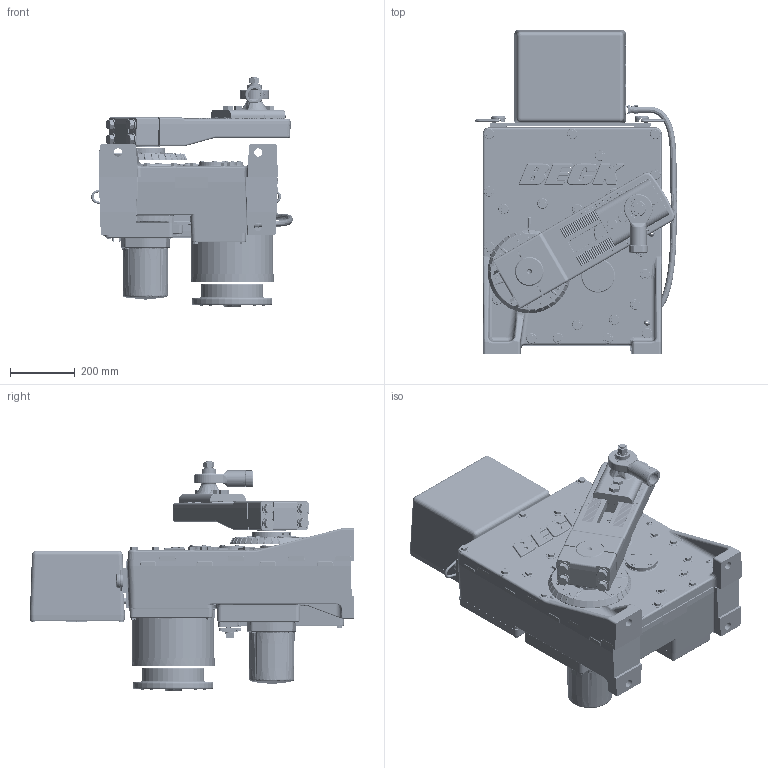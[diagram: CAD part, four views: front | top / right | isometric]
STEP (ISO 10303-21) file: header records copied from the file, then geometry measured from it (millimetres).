
FILE_DESCRIPTION (( 'STEP AP203' ), '1' );
FILE_NAME ('18-2230-05.STEP', '2014-04-11T14:32:47', ( '' ), ( '' ), 'SwSTEP 2.0', 'SolidWorks 2013', '' );
FILE_SCHEMA (( 'CONFIG_CONTROL_DESIGN' ));
Products named in the file (1): 18-2230-05
Bounding box: 620.59 x 998.47 x 710.48 mm (x, y, z)
Surface area: 3471056.7 mm2 (no closed solid volume)
Topology: 0 solids, 421 shells, 3610 faces, 16413 edges, 12744 vertices
Faces by surface type: plane 1287, cylinder 988, bspline 567, cone 380, torus 288, sphere 100
Full cylindrical faces by diameter (mm): 50.8 x1
Entity records: 229395 total; most frequent: CARTESIAN_POINT 109298, DIRECTION 22649, ORIENTED_EDGE 22468, EDGE_CURVE 16354, VERTEX_POINT 12744, AXIS2_PLACEMENT_3D 8104, VECTOR 6441, LINE 6441
